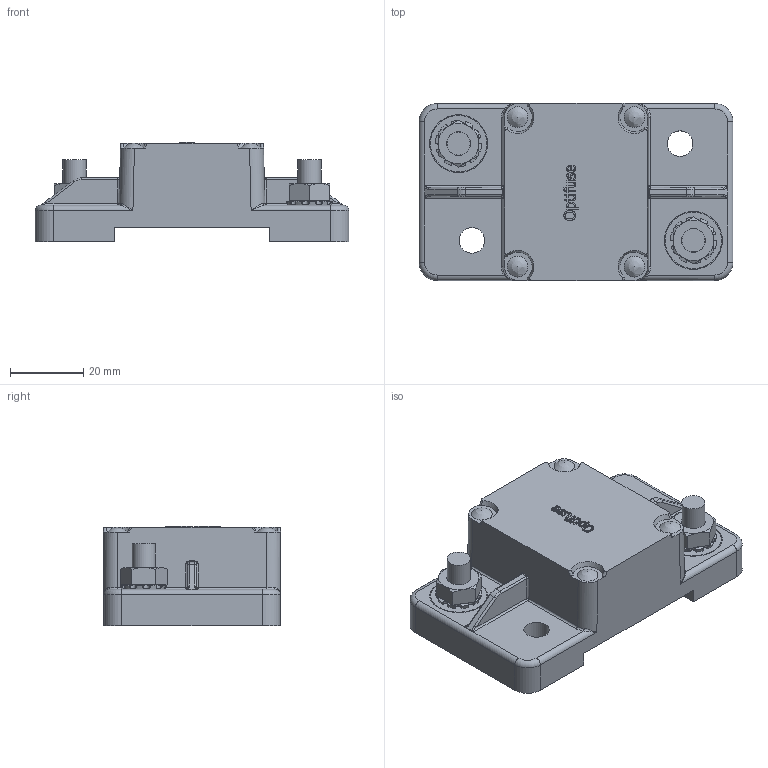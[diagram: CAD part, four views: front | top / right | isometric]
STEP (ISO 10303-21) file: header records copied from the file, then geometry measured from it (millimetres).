
FILE_DESCRIPTION(/* description */ (''),/* implementation_level */ '2;1');
FILE_NAME(/* name */ 'C:\Users\Hani\Desktop\work\251\251 Circuit Breaker.stp',/* time_stamp */ '2022-02-06T10:12:09-08:00',/* author */ ('Hani'),/* organization */ (''),/* preprocessor_version */ 'ST-DEVELOPER v17',/* originating_system */ 'Autodesk Inventor 2019',/* authorisation */ '');
FILE_SCHEMA (('AUTOMOTIVE_DESIGN { 1 0 10303 214 3 1 1 }'));
Products named in the file (5): 253 Circuit Breaker; Circuit_Breaker series 153; washer; bolt; .250-28 HEX NUT WITH TOOTH WASHER
Assembly tree (9 placements, depth 2):
  253 Circuit Breaker
    Circuit_Breaker series 153
    washer  x2
    bolt  x4
    .250-28 HEX NUT WITH TOOTH WASHER  x2
Bounding box: 86 x 48.5 x 27.3 mm (x, y, z)
Volume: 65798.2 mm3; surface area: 18903.4 mm2
Topology: 11 solids, 11 shells, 569 faces, 1475 edges, 939 vertices
Faces by surface type: plane 184, cylinder 158, bspline 155, cone 60, torus 8, sphere 4
Full cylindrical faces by diameter (mm): 3.429 x4, 3.5 x4, 5.368 x8, 6.35 x20, 7 x4, 8.757 x2, 15.494 x2, 15.875 x2
Entity records: 17506 total; most frequent: CARTESIAN_POINT 7831, ORIENTED_EDGE 2176, DIRECTION 1622, EDGE_CURVE 1088, VERTEX_POINT 696, AXIS2_PLACEMENT_3D 565, LINE 492, VECTOR 492
